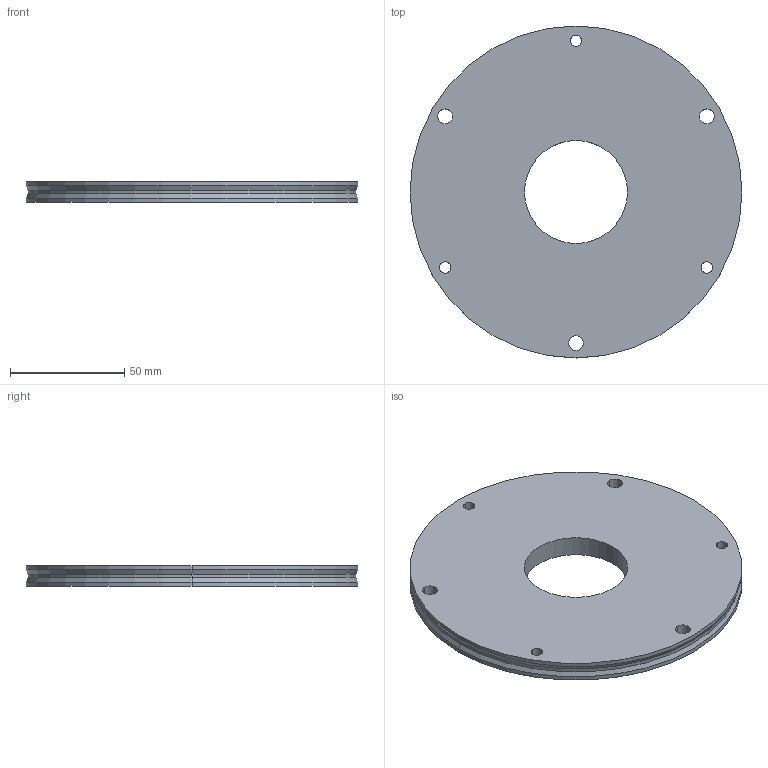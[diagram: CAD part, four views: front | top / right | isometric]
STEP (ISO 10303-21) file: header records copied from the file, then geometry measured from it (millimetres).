
FILE_DESCRIPTION (( 'STEP AP214' ), '1' );
FILE_NAME ('0538 Flansch.STEP', '2025-03-26T11:05:43', ( '' ), ( '' ), 'SwSTEP 2.0', 'SolidWorks 2022', '' );
FILE_SCHEMA (( 'AUTOMOTIVE_DESIGN' ));
Length unit declared in the file: millimetre
Products named in the file (1): 0538 Flansch
Bounding box: 145 x 145 x 9 mm (x, y, z)
Volume: 131327.4 mm3; surface area: 36075.7 mm2
Topology: 1 solids, 1 shells, 26 faces, 64 edges, 40 vertices
Faces by surface type: cylinder 20, cone 4, plane 2
Entity records: 868 total; most frequent: DIRECTION 158, CARTESIAN_POINT 131, ORIENTED_EDGE 128, AXIS2_PLACEMENT_3D 67, EDGE_CURVE 64, VERTEX_POINT 40, EDGE_LOOP 40, CIRCLE 40
